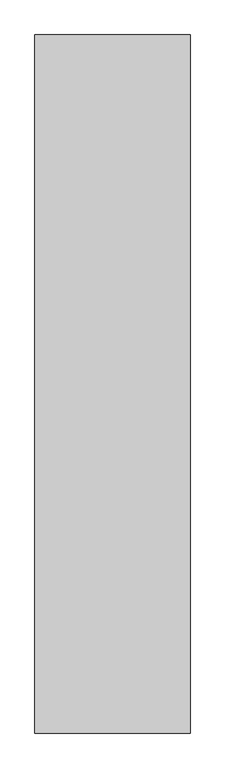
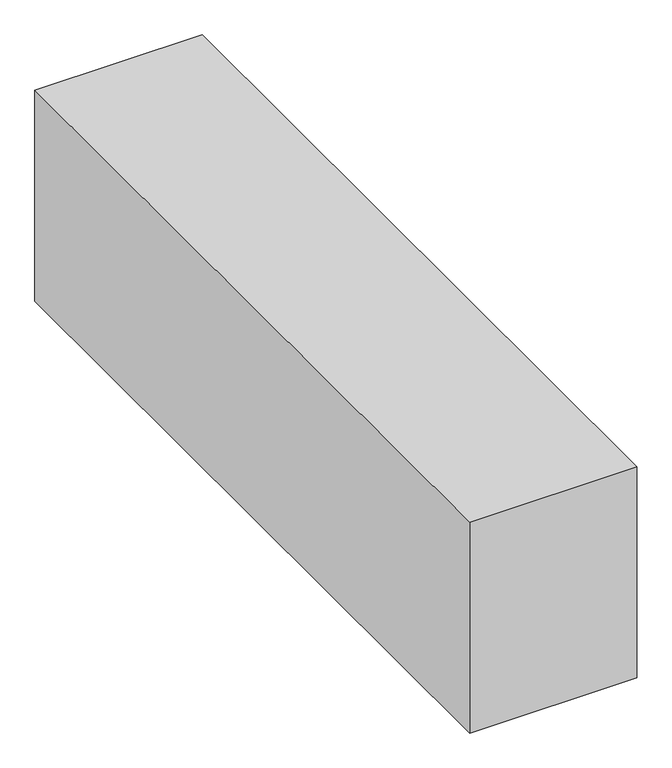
"""IFC4 building model written with IfcOpenShell, lengths in millimetres: proxy geometry, 制気口ボックス : 制気口ボックス."""

from ifc_helpers import new_model, si_unit, frame, origin, place, context, project, spatial, polyline, outline, extrude, source, transform, mapped, element, save


def mechanical_equipment_8f1e4886(model_context):
    return source(origin(), model_context, "Body", "SweptSolid", [
        extrude(outline(polyline([(150.0, 675.0), (150.0, -675.0), (-150.0, -675.0), (-150.0, 675.0), (150.0, 675.0)])), frame((0.0, 0.0, -200.0), z_axis=(0.0, 0.0, 1.0), x_axis=(1.0, 0.0, 0.0)), (0.0, 0.0, 1.0), 400.0),
    ])


if __name__ == "__main__":
    model = new_model("IFC4")
    model_context = context("Model", 3, world=origin())
    ifc_project = project(units=[si_unit("LENGTHUNIT", "METRE", prefix="MILLI")], contexts=[model_context])
    site = spatial("IfcSite", under=ifc_project)
    building = spatial("IfcBuilding", under=site)
    placement = place(None, origin())
    mechanical_equipment_shape = mechanical_equipment_8f1e4886(model_context)
    element("IfcBuildingElementProxy", 1, Name="制気口ボックス : 制気口ボックス", ObjectType="制気口ボックス : 制気口ボックス", at=placement, inside=building, context=model_context, shape_type="MappedRepresentation", body=[
        mapped(mechanical_equipment_shape, transform((0.0, 0.0, 0.0), x_axis=(1.0, 0.0, 0.0), y_axis=(0.0, 1.0, 0.0), z_axis=(0.0, 0.0, 1.0))),
    ])
    save(model, "model.ifc")
